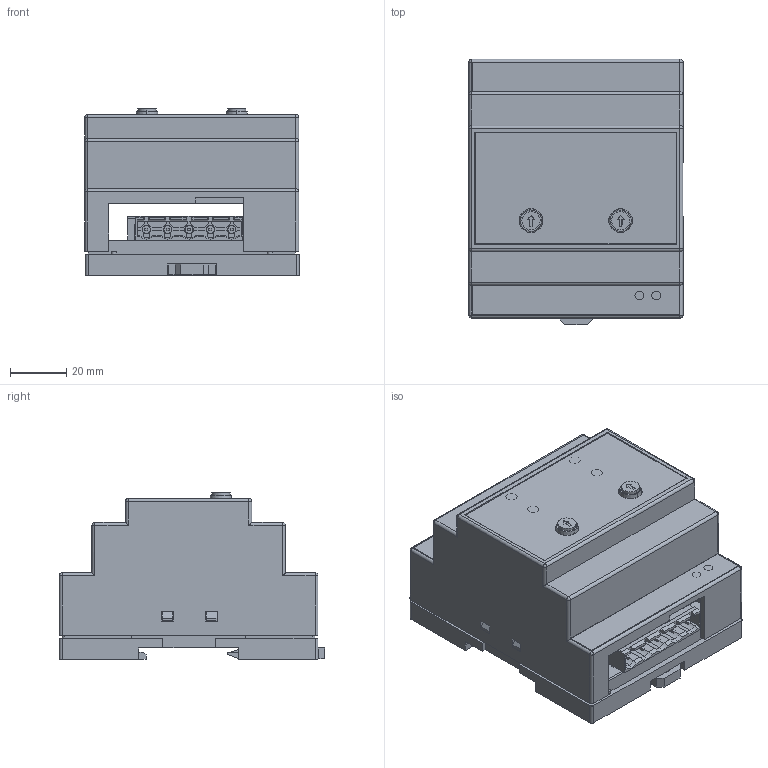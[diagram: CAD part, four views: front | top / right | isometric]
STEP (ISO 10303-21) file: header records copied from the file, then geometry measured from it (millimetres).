
FILE_DESCRIPTION (( 'STEP AP214' ), '1' );
FILE_NAME ('hat320郔笝沓妗耀倰.STEP', '2024-12-24T02:24:05', ( '' ), ( '' ), 'SwSTEP 2.0', 'SolidWorks 2022', '' );
FILE_SCHEMA (( 'AUTOMOTIVE_DESIGN' ));
Length unit declared in the file: millimetre
Products named in the file (1): hat320最终填实模型
Bounding box: 76.42 x 94.7 x 59.35 mm (x, y, z)
Volume: 192490.4 mm3; surface area: 70158.5 mm2
Topology: 7 solids, 7 shells, 1314 faces, 3460 edges, 2186 vertices
Faces by surface type: plane 982, cylinder 194, torus 88, cone 38, sphere 12
Entity records: 54488 total; most frequent: CARTESIAN_POINT 7362, ORIENTED_EDGE 6896, DIRECTION 6678, EDGE_CURVE 3448, VECTOR 2736, LINE 2736, VERTEX_POINT 2186, AXIS2_PLACEMENT_3D 1971
